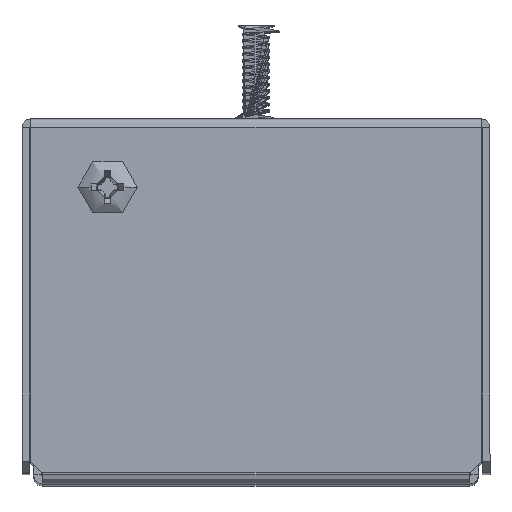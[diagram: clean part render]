
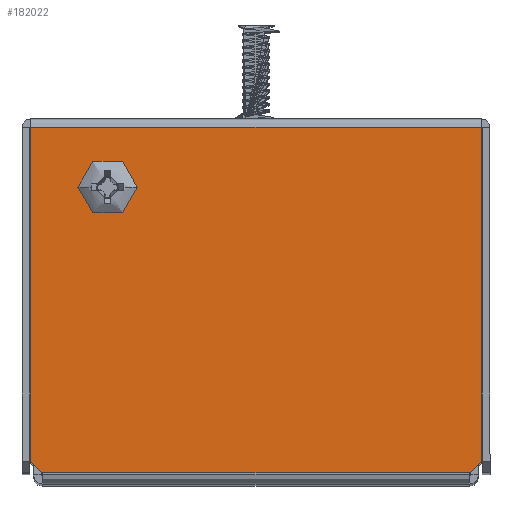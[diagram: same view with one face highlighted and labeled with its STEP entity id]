
A CAD part, top view. The second image highlights one B-rep face of the part: STEP entity #182022.
In plain terms, the highlighted planar face has unit normal (0, 0, 1).
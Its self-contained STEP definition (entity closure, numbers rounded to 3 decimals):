
#8164 = CARTESIAN_POINT ( 'NONE',  ( 19.75, -30., 57.04 ) ) ;
#13167 = ORIENTED_EDGE ( 'NONE', *, *, #128345, .F. ) ;
#18154 = CARTESIAN_POINT ( 'NONE',  ( -19.75, -0.75, 57.04 ) ) ;
#24202 = CARTESIAN_POINT ( 'NONE',  ( -13., -6., 57.04 ) ) ;
#24822 = LINE ( 'NONE', #160604, #167764 ) ;
#49667 = CARTESIAN_POINT ( 'NONE',  ( 19.75, -31., 57.04 ) ) ;
#60906 = CARTESIAN_POINT ( 'NONE',  ( -14.75, -6., 57.04 ) ) ;
#67533 = VERTEX_POINT ( 'NONE', #225809 ) ;
#69204 = ORIENTED_EDGE ( 'NONE', *, *, #116674, .F. ) ;
#71288 = CARTESIAN_POINT ( 'NONE',  ( -24.875, -24.875, 57.04 ) ) ;
#72905 = CARTESIAN_POINT ( 'NONE',  ( -19.75, -0.7, 57.04 ) ) ;
#74395 = EDGE_CURVE ( 'NONE', #87550, #67533, #315949, .T. ) ;
#76476 = CARTESIAN_POINT ( 'NONE',  ( -13., -6., 57.04 ) ) ;
#85048 = CARTESIAN_POINT ( 'NONE',  ( 19.75, -0.75, 57.04 ) ) ;
#87550 = VERTEX_POINT ( 'NONE', #184590 ) ;
#94448 = VERTEX_POINT ( 'NONE', #8164 ) ;
#98186 = LINE ( 'NONE', #357469, #241191 ) ;
#99816 = AXIS2_PLACEMENT_3D ( 'NONE', #76476, #275110, #307575 ) ;
#112625 = ORIENTED_EDGE ( 'NONE', *, *, #277762, .F. ) ;
#113167 = VERTEX_POINT ( 'NONE', #60906 ) ;
#113218 = VERTEX_POINT ( 'NONE', #144532 ) ;
#113599 = AXIS2_PLACEMENT_3D ( 'NONE', #117394, #353789, #259803 ) ;
#116674 = EDGE_CURVE ( 'NONE', #113218, #113167, #288709, .T. ) ;
#116936 = VERTEX_POINT ( 'NONE', #85048 ) ;
#117394 = CARTESIAN_POINT ( 'NONE',  ( 0., 0., 57.04 ) ) ;
#125697 = EDGE_CURVE ( 'NONE', #116936, #292634, #98186, .T. ) ;
#127172 = CARTESIAN_POINT ( 'NONE',  ( -19.75, -30., 57.04 ) ) ;
#128345 = EDGE_CURVE ( 'NONE', #113167, #113218, #252592, .T. ) ;
#130396 = VECTOR ( 'NONE', #253118, 1000. ) ;
#136943 = VECTOR ( 'NONE', #359012, 1000. ) ;
#144532 = CARTESIAN_POINT ( 'NONE',  ( -11.25, -6., 57.04 ) ) ;
#151184 = PLANE ( 'NONE',  #113599 ) ;
#152284 = LINE ( 'NONE', #71288, #237316 ) ;
#154917 = DIRECTION ( 'NONE',  ( 0.707, -0.707, 0. ) ) ;
#155288 = EDGE_LOOP ( 'NONE', ( #69204, #13167 ) ) ;
#158367 = EDGE_CURVE ( 'NONE', #160389, #292634, #353724, .T. ) ;
#160389 = VERTEX_POINT ( 'NONE', #127172 ) ;
#160604 = CARTESIAN_POINT ( 'NONE',  ( 24.875, -24.875, 57.04 ) ) ;
#167764 = VECTOR ( 'NONE', #360742, 1000. ) ;
#168096 = ORIENTED_EDGE ( 'NONE', *, *, #74395, .F. ) ;
#182022 = ADVANCED_FACE ( 'NONE', ( #356769, #231361 ), #151184, .T. ) ;
#184590 = CARTESIAN_POINT ( 'NONE',  ( 18.75, -31., 57.04 ) ) ;
#185121 = CARTESIAN_POINT ( 'NONE',  ( -19.75, -31., 57.04 ) ) ;
#225809 = CARTESIAN_POINT ( 'NONE',  ( -18.75, -31., 57.04 ) ) ;
#231361 = FACE_OUTER_BOUND ( 'NONE', #308779, .T. ) ;
#237316 = VECTOR ( 'NONE', #154917, 1000. ) ;
#241191 = VECTOR ( 'NONE', #327470, 1000. ) ;
#252592 = CIRCLE ( 'NONE', #327215, 1.75 ) ;
#253118 = DIRECTION ( 'NONE',  ( 0., -1., 0. ) ) ;
#259803 = DIRECTION ( 'NONE',  ( 0., -1., 0. ) ) ;
#263705 = EDGE_CURVE ( 'NONE', #87550, #94448, #24822, .T. ) ;
#275110 = DIRECTION ( 'NONE',  ( 0., 0., 1. ) ) ;
#277762 = EDGE_CURVE ( 'NONE', #116936, #94448, #282457, .T. ) ;
#282457 = LINE ( 'NONE', #49667, #130396 ) ;
#288709 = CIRCLE ( 'NONE', #99816, 1.75 ) ;
#292634 = VERTEX_POINT ( 'NONE', #18154 ) ;
#305377 = DIRECTION ( 'NONE',  ( 1., 0., 0. ) ) ;
#307575 = DIRECTION ( 'NONE',  ( 1., 0., 0. ) ) ;
#308779 = EDGE_LOOP ( 'NONE', ( #334097, #350943, #168096, #315136, #112625, #311769 ) ) ;
#311769 = ORIENTED_EDGE ( 'NONE', *, *, #125697, .T. ) ;
#315136 = ORIENTED_EDGE ( 'NONE', *, *, #263705, .T. ) ;
#315949 = LINE ( 'NONE', #185121, #136943 ) ;
#327215 = AXIS2_PLACEMENT_3D ( 'NONE', #24202, #365446, #305377 ) ;
#327470 = DIRECTION ( 'NONE',  ( -1., 0., 0. ) ) ;
#334097 = ORIENTED_EDGE ( 'NONE', *, *, #158367, .F. ) ;
#338365 = EDGE_CURVE ( 'NONE', #160389, #67533, #152284, .T. ) ;
#350943 = ORIENTED_EDGE ( 'NONE', *, *, #338365, .T. ) ;
#353724 = LINE ( 'NONE', #72905, #362661 ) ;
#353789 = DIRECTION ( 'NONE',  ( 0., 0., 1. ) ) ;
#356769 = FACE_BOUND ( 'NONE', #155288, .T. ) ;
#357469 = CARTESIAN_POINT ( 'NONE',  ( 0., -0.75, 57.04 ) ) ;
#359012 = DIRECTION ( 'NONE',  ( -1., 0., 0. ) ) ;
#359131 = DIRECTION ( 'NONE',  ( 0., 1., 0. ) ) ;
#360742 = DIRECTION ( 'NONE',  ( 0.707, 0.707, 0. ) ) ;
#362661 = VECTOR ( 'NONE', #359131, 1000. ) ;
#365446 = DIRECTION ( 'NONE',  ( 0., 0., 1. ) ) ;
